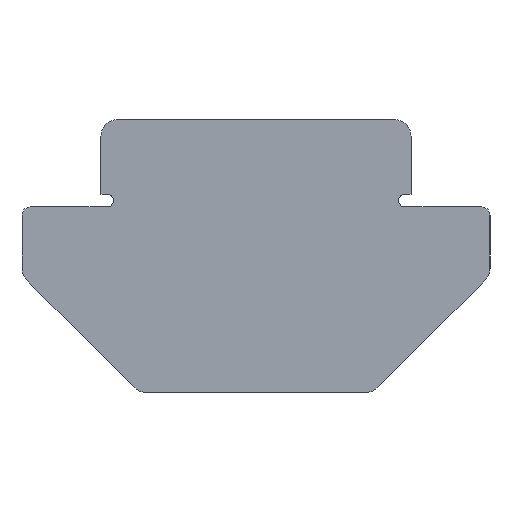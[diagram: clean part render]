
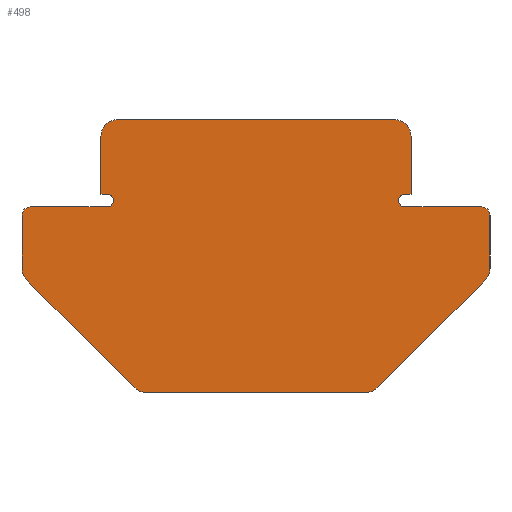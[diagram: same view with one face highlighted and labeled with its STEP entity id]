
A CAD part, left-side view. The second image highlights one B-rep face of the part: STEP entity #498.
In plain terms, the highlighted planar face has unit normal (-1, 0, 0).
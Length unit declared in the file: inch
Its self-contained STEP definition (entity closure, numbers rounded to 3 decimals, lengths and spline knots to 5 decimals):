
#1=DIRECTION('',(0.,0.,1.));
#2=VECTOR('',#1,0.06372);
#3=CARTESIAN_POINT('',(0.,-0.2815,0.14928));
#4=LINE('',#3,#2);
#5=CARTESIAN_POINT('',(0.,-0.2615,0.14928));
#6=DIRECTION('',(-1.,0.,0.));
#7=DIRECTION('',(0.,-0.707,-0.707));
#8=AXIS2_PLACEMENT_3D('',#5,#6,#7);
#10=DIRECTION('',(0.,-0.707,0.707));
#11=VECTOR('',#10,0.18284);
#12=CARTESIAN_POINT('',(0.,-0.14636,
0.00586));
#13=LINE('',#12,#11);
#14=CARTESIAN_POINT('',(0.,-0.13222,0.02));
#15=DIRECTION('',(-1.,0.,0.));
#16=DIRECTION('',(0.,0.,-1.));
#17=AXIS2_PLACEMENT_3D('',#14,#15,#16);
#19=DIRECTION('',(0.,-1.,0.));
#20=VECTOR('',#19,0.26443);
#21=CARTESIAN_POINT('',(0.,0.13222,0.));
#22=LINE('',#21,#20);
#23=CARTESIAN_POINT('',(0.,0.13222,0.02));
#24=DIRECTION('',(-1.,0.,0.));
#25=DIRECTION('',(0.,0.707,-0.707));
#26=AXIS2_PLACEMENT_3D('',#23,#24,#25);
#28=DIRECTION('',(0.,-0.707,-0.707));
#29=VECTOR('',#28,0.18284);
#30=CARTESIAN_POINT('',(0.,0.27564,
0.13514));
#31=LINE('',#30,#29);
#32=CARTESIAN_POINT('',(0.,0.2615,0.14928));
#33=DIRECTION('',(-1.,0.,0.));
#34=DIRECTION('',(0.,1.,0.));
#35=AXIS2_PLACEMENT_3D('',#32,#33,#34);
#37=DIRECTION('',(0.,0.,-1.));
#38=VECTOR('',#37,0.06372);
#39=CARTESIAN_POINT('',(0.,0.2815,0.213));
#40=LINE('',#39,#38);
#41=CARTESIAN_POINT('',(0.,0.2715,0.213));
#42=DIRECTION('',(-1.,0.,0.));
#43=DIRECTION('',(0.,0.,1.));
#44=AXIS2_PLACEMENT_3D('',#41,#42,#43);
#46=DIRECTION('',(0.,1.,0.));
#47=VECTOR('',#46,0.0925);
#48=CARTESIAN_POINT('',(0.,0.179,0.223));
#49=LINE('',#48,#47);
#50=CARTESIAN_POINT('',(0.,0.179,0.2305));
#51=DIRECTION('',(1.,0.,0.));
#52=DIRECTION('',(0.,0.,1.));
#53=AXIS2_PLACEMENT_3D('',#50,#51,#52);
#55=DIRECTION('',(0.,-1.,0.));
#56=VECTOR('',#55,0.0075);
#57=CARTESIAN_POINT('',(0.,0.1865,0.238));
#58=LINE('',#57,#56);
#59=DIRECTION('',(0.,0.,-1.));
#60=VECTOR('',#59,0.07);
#61=CARTESIAN_POINT('',(0.,0.1865,0.308));
#62=LINE('',#61,#60);
#63=CARTESIAN_POINT('',(0.,0.1665,0.308));
#64=DIRECTION('',(-1.,0.,0.));
#65=DIRECTION('',(0.,0.,1.));
#66=AXIS2_PLACEMENT_3D('',#63,#64,#65);
#68=DIRECTION('',(0.,1.,0.));
#69=VECTOR('',#68,0.333);
#70=CARTESIAN_POINT('',(0.,-0.1665,0.328));
#71=LINE('',#70,#69);
#72=CARTESIAN_POINT('',(0.,-0.1665,0.308));
#73=DIRECTION('',(-1.,0.,0.));
#74=DIRECTION('',(0.,-1.,0.));
#75=AXIS2_PLACEMENT_3D('',#72,#73,#74);
#77=DIRECTION('',(0.,0.,1.));
#78=VECTOR('',#77,0.07);
#79=CARTESIAN_POINT('',(0.,-0.1865,0.238));
#80=LINE('',#79,#78);
#81=DIRECTION('',(0.,-1.,0.));
#82=VECTOR('',#81,0.0075);
#83=CARTESIAN_POINT('',(0.,-0.179,0.238));
#84=LINE('',#83,#82);
#85=CARTESIAN_POINT('',(0.,-0.179,0.2305));
#86=DIRECTION('',(1.,0.,0.));
#87=DIRECTION('',(0.,0.,-1.));
#88=AXIS2_PLACEMENT_3D('',#85,#86,#87);
#90=DIRECTION('',(0.,1.,0.));
#91=VECTOR('',#90,0.0925);
#92=CARTESIAN_POINT('',(0.,-0.2715,0.223));
#93=LINE('',#92,#91);
#94=CARTESIAN_POINT('',(0.,-0.2715,0.213));
#95=DIRECTION('',(-1.,0.,0.));
#96=DIRECTION('',(0.,-1.,0.));
#97=AXIS2_PLACEMENT_3D('',#94,#95,#96);
#349=CARTESIAN_POINT('',(0.,-0.179,0.223));
#350=CARTESIAN_POINT('',(0.,-0.179,0.238));
#351=VERTEX_POINT('',#349);
#352=VERTEX_POINT('',#350);
#353=CARTESIAN_POINT('',(0.,0.13222,0.));
#354=CARTESIAN_POINT('',(0.,-0.13222,0.));
#355=VERTEX_POINT('',#353);
#356=VERTEX_POINT('',#354);
#369=CARTESIAN_POINT('',(0.,-0.1865,0.308));
#370=VERTEX_POINT('',#369);
#371=CARTESIAN_POINT('',(0.,-0.27564,0.13514));
#372=CARTESIAN_POINT('',(0.,-0.2815,0.14928));
#373=VERTEX_POINT('',#371);
#374=VERTEX_POINT('',#372);
#375=CARTESIAN_POINT('',(0.,0.179,0.238));
#376=CARTESIAN_POINT('',(0.,0.179,0.223));
#377=VERTEX_POINT('',#375);
#378=VERTEX_POINT('',#376);
#379=CARTESIAN_POINT('',(0.,-0.2715,0.223));
#380=VERTEX_POINT('',#379);
#389=CARTESIAN_POINT('',(0.,0.1865,0.308));
#390=VERTEX_POINT('',#389);
#391=CARTESIAN_POINT('',(0.,0.2715,0.223));
#392=CARTESIAN_POINT('',(0.,0.2815,0.213));
#393=VERTEX_POINT('',#391);
#394=VERTEX_POINT('',#392);
#401=CARTESIAN_POINT('',(0.,-0.2815,0.213));
#403=VERTEX_POINT('',#401);
#405=CARTESIAN_POINT('',(0.,0.1865,0.238));
#406=VERTEX_POINT('',#405);
#407=CARTESIAN_POINT('',(0.,-0.14636,0.00586));
#408=VERTEX_POINT('',#407);
#415=CARTESIAN_POINT('',(0.,-0.1665,0.328));
#416=VERTEX_POINT('',#415);
#417=CARTESIAN_POINT('',(0.,0.1665,0.328));
#418=VERTEX_POINT('',#417);
#423=CARTESIAN_POINT('',(0.,0.2815,0.14928));
#424=VERTEX_POINT('',#423);
#441=CARTESIAN_POINT('',(0.,-0.1865,0.238));
#442=VERTEX_POINT('',#441);
#443=CARTESIAN_POINT('',(0.,0.27564,
0.13514));
#444=CARTESIAN_POINT('',(0.,0.14636,
0.00586));
#445=VERTEX_POINT('',#443);
#446=VERTEX_POINT('',#444);
#447=CARTESIAN_POINT('',(0.,-0.179,0.2305));
#448=DIRECTION('',(1.,0.,0.));
#449=DIRECTION('',(0.,0.,-1.));
#450=AXIS2_PLACEMENT_3D('',#447,#448,#449);
#451=PLANE('',#450);
#453=ORIENTED_EDGE('',*,*,#452,.F.);
#455=ORIENTED_EDGE('',*,*,#454,.F.);
#457=ORIENTED_EDGE('',*,*,#456,.F.);
#459=ORIENTED_EDGE('',*,*,#458,.F.);
#461=ORIENTED_EDGE('',*,*,#460,.F.);
#463=ORIENTED_EDGE('',*,*,#462,.F.);
#465=ORIENTED_EDGE('',*,*,#464,.F.);
#467=ORIENTED_EDGE('',*,*,#466,.F.);
#469=ORIENTED_EDGE('',*,*,#468,.F.);
#471=ORIENTED_EDGE('',*,*,#470,.F.);
#473=ORIENTED_EDGE('',*,*,#472,.F.);
#475=ORIENTED_EDGE('',*,*,#474,.F.);
#477=ORIENTED_EDGE('',*,*,#476,.F.);
#479=ORIENTED_EDGE('',*,*,#478,.F.);
#481=ORIENTED_EDGE('',*,*,#480,.F.);
#483=ORIENTED_EDGE('',*,*,#482,.F.);
#485=ORIENTED_EDGE('',*,*,#484,.F.);
#487=ORIENTED_EDGE('',*,*,#486,.F.);
#489=ORIENTED_EDGE('',*,*,#488,.F.);
#491=ORIENTED_EDGE('',*,*,#490,.F.);
#493=ORIENTED_EDGE('',*,*,#492,.F.);
#495=ORIENTED_EDGE('',*,*,#494,.F.);
#496=EDGE_LOOP('',(#453,#455,#457,#459,#461,#463,#465,#467,#469,#471,#473,#475,
#477,#479,#481,#483,#485,#487,#489,#491,#493,#495));
#497=FACE_OUTER_BOUND('',#496,.F.);
#9=CIRCLE('',#8,0.02);
#18=CIRCLE('',#17,0.02);
#27=CIRCLE('',#26,0.02);
#36=CIRCLE('',#35,0.02);
#45=CIRCLE('',#44,0.01);
#54=CIRCLE('',#53,0.0075);
#67=CIRCLE('',#66,0.02);
#76=CIRCLE('',#75,0.02);
#89=CIRCLE('',#88,0.0075);
#98=CIRCLE('',#97,0.01);
#452=EDGE_CURVE('',#374,#403,#4,.T.);
#454=EDGE_CURVE('',#373,#374,#9,.T.);
#456=EDGE_CURVE('',#408,#373,#13,.T.);
#458=EDGE_CURVE('',#356,#408,#18,.T.);
#460=EDGE_CURVE('',#355,#356,#22,.T.);
#462=EDGE_CURVE('',#446,#355,#27,.T.);
#464=EDGE_CURVE('',#445,#446,#31,.T.);
#466=EDGE_CURVE('',#424,#445,#36,.T.);
#468=EDGE_CURVE('',#394,#424,#40,.T.);
#470=EDGE_CURVE('',#393,#394,#45,.T.);
#472=EDGE_CURVE('',#378,#393,#49,.T.);
#474=EDGE_CURVE('',#377,#378,#54,.T.);
#476=EDGE_CURVE('',#406,#377,#58,.T.);
#478=EDGE_CURVE('',#390,#406,#62,.T.);
#480=EDGE_CURVE('',#418,#390,#67,.T.);
#482=EDGE_CURVE('',#416,#418,#71,.T.);
#484=EDGE_CURVE('',#370,#416,#76,.T.);
#486=EDGE_CURVE('',#442,#370,#80,.T.);
#488=EDGE_CURVE('',#352,#442,#84,.T.);
#490=EDGE_CURVE('',#351,#352,#89,.T.);
#492=EDGE_CURVE('',#380,#351,#93,.T.);
#494=EDGE_CURVE('',#403,#380,#98,.T.);
#498=ADVANCED_FACE('',(#497),#451,.F.);
